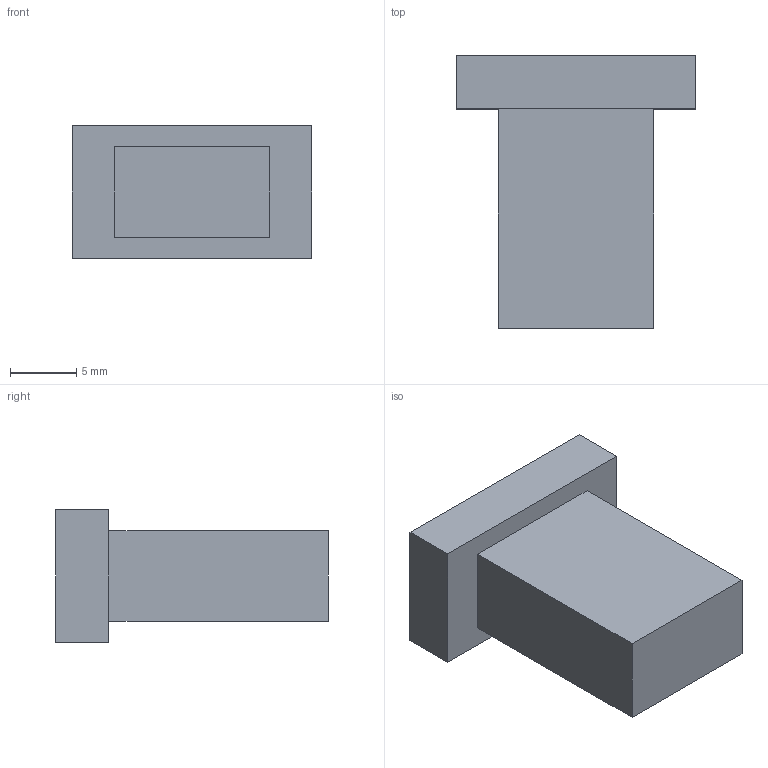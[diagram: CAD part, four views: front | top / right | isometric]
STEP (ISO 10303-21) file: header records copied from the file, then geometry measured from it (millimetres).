
FILE_DESCRIPTION(('FreeCAD Model'),'2;1');
FILE_NAME('Open CASCADE Shape Model','2026-11-04T02:12:41',('FreeCAD'),( 'FreeCAD'),'Open CASCADE STEP processor 7.8','FreeCAD','Unknown');
FILE_SCHEMA(('AUTOMOTIVE_DESIGN { 1 0 10303 214 1 1 1 1 }'));
Length unit declared in the file: millimetre
Products named in the file (1): Open CASCADE STEP translator 7.8 2
Bounding box: 18 x 20.5 x 10 mm (x, y, z)
Volume: 2032.7 mm3; surface area: 1194.5 mm2
Topology: 1 solids, 1 shells, 11 faces, 24 edges, 16 vertices
Faces by surface type: plane 11
Entity records: 308 total; most frequent: CARTESIAN_POINT 52, DIRECTION 48, ORIENTED_EDGE 48, EDGE_CURVE 24, LINE 24, VECTOR 24, VERTEX_POINT 16, AXIS2_PLACEMENT_3D 12
